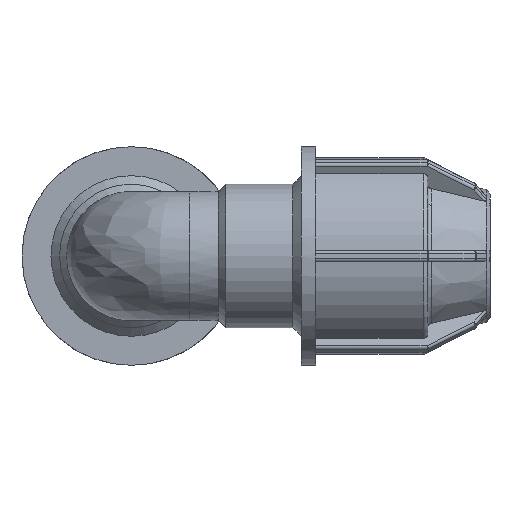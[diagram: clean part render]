
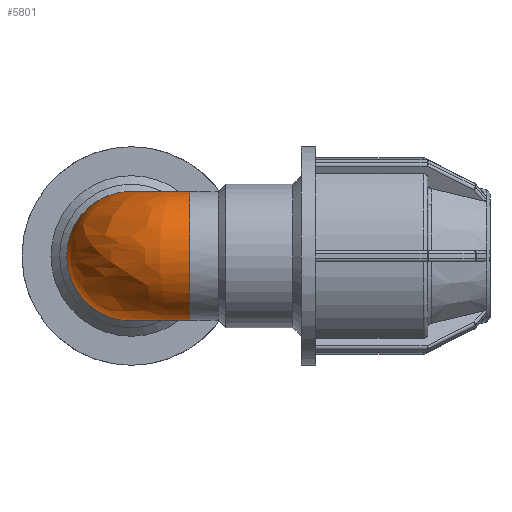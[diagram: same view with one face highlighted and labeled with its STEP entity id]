
A CAD part, front view. The second image highlights one B-rep face of the part: STEP entity #5801.
In plain terms, the highlighted free-form (B-spline) face has degree [2, 2] with [9, 3] control points.
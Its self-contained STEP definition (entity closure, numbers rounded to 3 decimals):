
#1374=FACE_OUTER_BOUND('',#1778,.T.);
#1778=EDGE_LOOP('',(#3990,#3991));
#2213=CIRCLE('',#6207,11.52);
#2214=CIRCLE('',#6208,11.52);
#2553=VERTEX_POINT('',#8829);
#2554=VERTEX_POINT('',#8830);
#3085=EDGE_CURVE('',#2553,#2554,#2213,.T.);
#3086=EDGE_CURVE('',#2554,#2553,#2214,.T.);
#3990=ORIENTED_EDGE('',*,*,#3085,.F.);
#3991=ORIENTED_EDGE('',*,*,#3086,.F.);
#5800=(
BOUNDED_SURFACE()
B_SPLINE_SURFACE(2,2,((#8802,#8803,#8804),(#8805,#8806,#8807),(#8808,#8809,
#8810),(#8811,#8812,#8813),(#8814,#8815,#8816),(#8817,#8818,#8819),(#8820,
#8821,#8822),(#8823,#8824,#8825),(#8826,#8827,#8828)),.UNSPECIFIED.,.F.,
 .F.,.F.)
B_SPLINE_SURFACE_WITH_KNOTS((3,2,2,2,3),(3,3),(-2.705,-1.353,
0.,1.353,2.705),(-3.142,-1.571),
 .UNSPECIFIED.)
GEOMETRIC_REPRESENTATION_ITEM()
RATIONAL_B_SPLINE_SURFACE(((1.,0.707,1.),(0.78,
0.551,0.78),(1.,0.707,1.),(0.78,
0.551,0.78),(1.,0.707,1.),(0.78,
0.551,0.78),(1.,0.707,1.),(0.78,
0.551,0.78),(1.,0.707,1.)))
REPRESENTATION_ITEM('')
SURFACE()
);
#5801=ADVANCED_FACE('',(#1374),#5800,.F.);
#6207=AXIS2_PLACEMENT_3D('',#8831,#6953,#6954);
#6208=AXIS2_PLACEMENT_3D('',#8832,#6955,#6956);
#6953=DIRECTION('center_axis',(1.,0.,0.));
#6954=DIRECTION('ref_axis',(0.,0.,-1.));
#6955=DIRECTION('center_axis',(0.,1.,0.));
#6956=DIRECTION('ref_axis',(0.,0.,-1.));
#8802=CARTESIAN_POINT('Ctrl Pts',(10.44,10.44,-4.87));
#8803=CARTESIAN_POINT('Ctrl Pts',(10.44,10.44,-4.87));
#8804=CARTESIAN_POINT('Ctrl Pts',(10.44,10.44,-4.87));
#8805=CARTESIAN_POINT('Ctrl Pts',(6.532,10.44,-13.248));
#8806=CARTESIAN_POINT('Ctrl Pts',(6.532,6.532,-13.248));
#8807=CARTESIAN_POINT('Ctrl Pts',(10.44,6.532,-13.248));
#8808=CARTESIAN_POINT('Ctrl Pts',(-2.494,10.44,-11.247));
#8809=CARTESIAN_POINT('Ctrl Pts',(-2.494,-2.494,-11.247));
#8810=CARTESIAN_POINT('Ctrl Pts',(10.44,-2.494,-11.247));
#8811=CARTESIAN_POINT('Ctrl Pts',(-11.52,10.44,-9.245));
#8812=CARTESIAN_POINT('Ctrl Pts',(-11.52,-11.52,-9.245));
#8813=CARTESIAN_POINT('Ctrl Pts',(10.44,-11.52,-9.245));
#8814=CARTESIAN_POINT('Ctrl Pts',(-11.52,10.44,0.));
#8815=CARTESIAN_POINT('Ctrl Pts',(-11.52,-11.52,0.));
#8816=CARTESIAN_POINT('Ctrl Pts',(10.44,-11.52,0.));
#8817=CARTESIAN_POINT('Ctrl Pts',(-11.52,10.44,9.245));
#8818=CARTESIAN_POINT('Ctrl Pts',(-11.52,-11.52,9.245));
#8819=CARTESIAN_POINT('Ctrl Pts',(10.44,-11.52,9.245));
#8820=CARTESIAN_POINT('Ctrl Pts',(-2.494,10.44,11.247));
#8821=CARTESIAN_POINT('Ctrl Pts',(-2.494,-2.494,11.247));
#8822=CARTESIAN_POINT('Ctrl Pts',(10.44,-2.494,11.247));
#8823=CARTESIAN_POINT('Ctrl Pts',(6.532,10.44,13.248));
#8824=CARTESIAN_POINT('Ctrl Pts',(6.532,6.532,13.248));
#8825=CARTESIAN_POINT('Ctrl Pts',(10.44,6.532,13.248));
#8826=CARTESIAN_POINT('Ctrl Pts',(10.44,10.44,4.87));
#8827=CARTESIAN_POINT('Ctrl Pts',(10.44,10.44,4.87));
#8828=CARTESIAN_POINT('Ctrl Pts',(10.44,10.44,4.87));
#8829=CARTESIAN_POINT('',(10.44,10.44,4.87));
#8830=CARTESIAN_POINT('',(10.44,10.44,-4.87));
#8831=CARTESIAN_POINT('Origin',(10.44,0.,0.));
#8832=CARTESIAN_POINT('Origin',(0.,10.44,0.));
